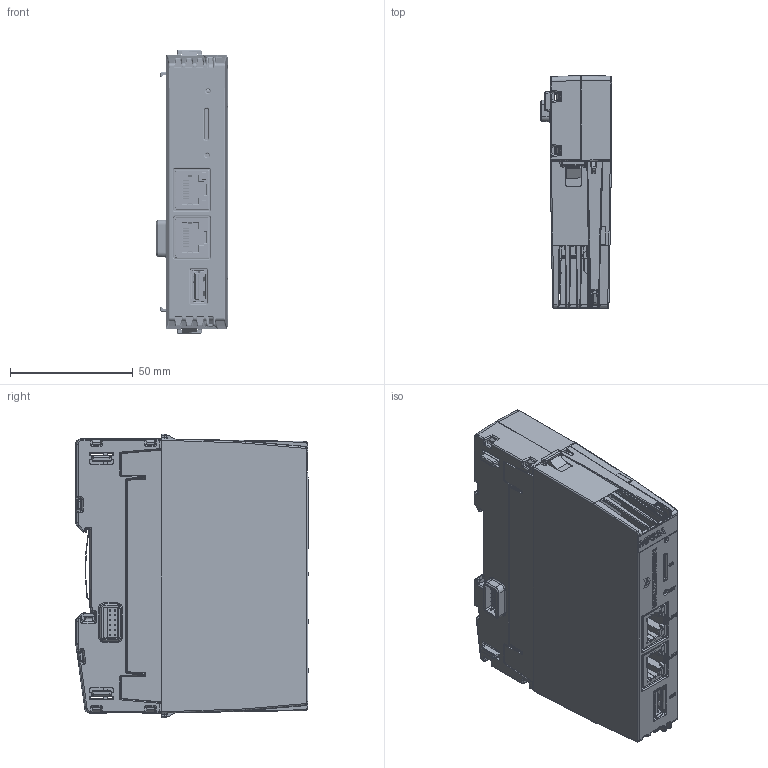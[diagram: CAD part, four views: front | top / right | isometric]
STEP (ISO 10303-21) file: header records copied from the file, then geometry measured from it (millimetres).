
FILE_DESCRIPTION(/* description */ (''),/* implementation_level */ '2;1');
FILE_NAME(/* name */ 'C:\Users\Public\Documents\Autodesk\Inventor 2023\MP32A_Simplified+BB61R.stp',/* time_stamp */ '2024-11-14T13:12:16+01:00',/* author */ ('asho'),/* organization */ (''),/* preprocessor_version */ 'ST-DEVELOPER v19',/* originating_system */ 'Autodesk Inventor 2023',/* authorisation */ '');
FILE_SCHEMA (('AUTOMOTIVE_DESIGN { 1 0 10303 214 3 1 1 }'));
Products named in the file (1): MP32A_Simplified+BB61R
Bounding box: 28.9 x 94.58 x 115.5 mm (x, y, z)
Volume: 128558.2 mm3; surface area: 80658.9 mm2
Topology: 10 solids, 10 shells, 6855 faces, 18698 edges, 11754 vertices
Faces by surface type: plane 4196, cylinder 1844, bspline 591, sphere 184, torus 26, cone 14
Full cylindrical faces by diameter (mm): 0.3 x39, 0.7 x36, 0.75 x2, 0.8 x13, 0.85 x24, 0.9 x28, 1 x4, 1.02 x8, 1.3 x4, 1.4 x4, 1.6 x2, 1.7 x4, 2.35 x2, 2.5 x1, 3 x3, 3.2 x4, 3.25 x2
Entity records: 239807 total; most frequent: CARTESIAN_POINT 60135, ORIENTED_EDGE 37052, DIRECTION 34445, EDGE_CURVE 18526, LINE 13529, VECTOR 13529, VERTEX_POINT 11754, AXIS2_PLACEMENT_3D 10458
